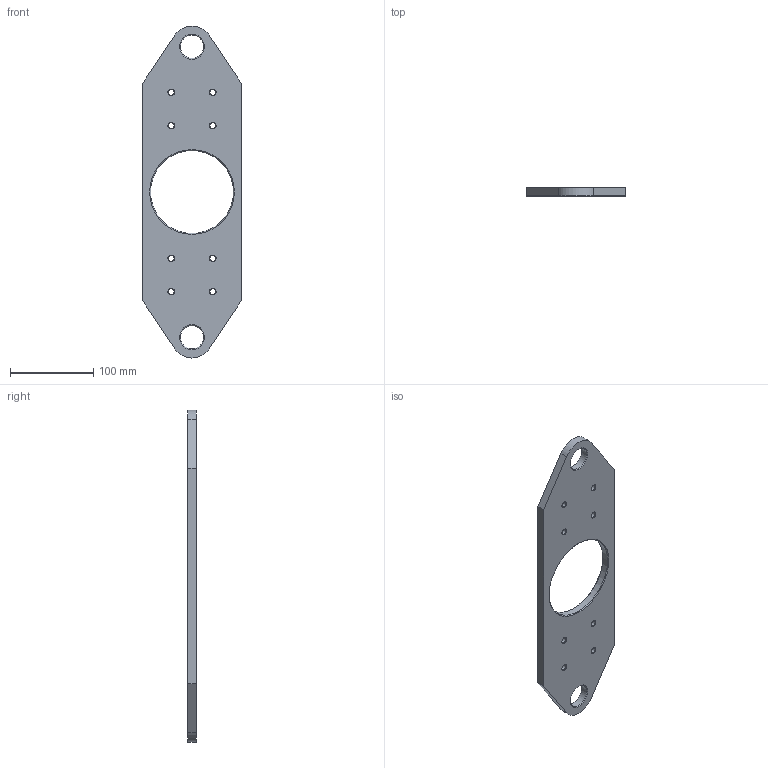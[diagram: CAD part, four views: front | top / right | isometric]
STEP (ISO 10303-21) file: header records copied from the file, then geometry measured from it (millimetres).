
FILE_DESCRIPTION(/* description */ (''),/* implementation_level */ '2;1');
FILE_NAME(/* name */ 'TRAYLOADER.108.stp',/* time_stamp */ '2025-05-12T16:11:58+02:00',/* author */ (''),/* organization */ (''),/* preprocessor_version */ 'ST-DEVELOPER v19.4',/* originating_system */ 'SIEMENS PLM Software NX2306.5001',/* authorisation */ '');
FILE_SCHEMA (('AP203_CONFIGURATION_CONTROLLED_3D_DESIGN_OF_MECHANICAL_PARTS_AND_ASSEMBLIES_MIM_LF { 1 0 10303 403 2 1 2}'));
Length unit declared in the file: millimetre
Products named in the file (1): TRAYLOADER.108_objects
Bounding box: 120 x 10 x 400 mm (x, y, z)
Volume: 319325.3 mm3; surface area: 78920 mm2
Topology: 1 solids, 1 shells, 43 faces, 109 edges, 68 vertices
Faces by surface type: cone 22, cylinder 13, plane 8
Full cylindrical faces by diameter (mm): 6.8 x8, 28 x2, 100 x1
Entity records: 1192 total; most frequent: DIRECTION 204, CARTESIAN_POINT 172, ORIENTED_EDGE 136, EDGE_LOOP 98, AXIS2_PLACEMENT_3D 92, FACE_BOUND 90, EDGE_CURVE 68, VERTEX_POINT 60
